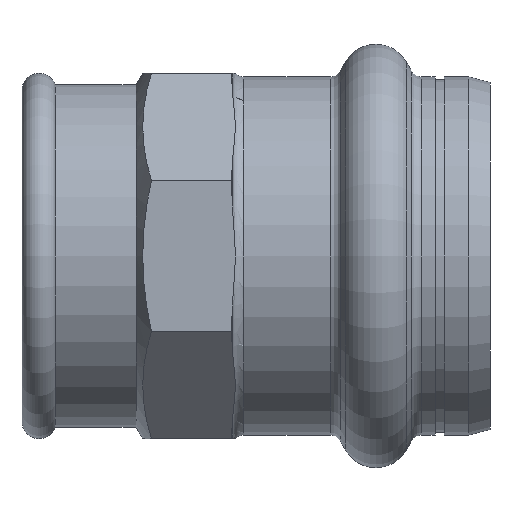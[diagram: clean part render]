
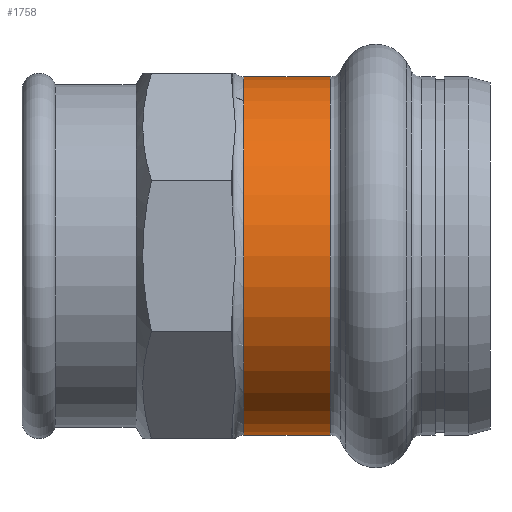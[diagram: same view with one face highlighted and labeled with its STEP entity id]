
A CAD part, left-side view. The second image highlights one B-rep face of the part: STEP entity #1758.
In plain terms, the highlighted cylindrical face has radius 15.7 mm (diameter 31.4 mm), a partial arc.
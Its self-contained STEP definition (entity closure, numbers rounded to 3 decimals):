
#53 = VERTEX_POINT ( 'NONE', #2024 ) ;
#90 = AXIS2_PLACEMENT_3D ( 'NONE', #504, #303, #1040 ) ;
#97 = ORIENTED_EDGE ( 'NONE', *, *, #1045, .F. ) ;
#250 = EDGE_CURVE ( 'NONE', #1860, #53, #789, .T. ) ;
#281 = VERTEX_POINT ( 'NONE', #1890 ) ;
#303 = DIRECTION ( 'NONE',  ( 0., -1., 0. ) ) ;
#318 = VECTOR ( 'NONE', #1168, 1000. ) ;
#339 = FACE_OUTER_BOUND ( 'NONE', #553, .T. ) ;
#389 = AXIS2_PLACEMENT_3D ( 'NONE', #1660, #1938, #1682 ) ;
#504 = CARTESIAN_POINT ( 'NONE',  ( 0., 21.584, 0. ) ) ;
#553 = EDGE_LOOP ( 'NONE', ( #1192, #1974, #1106, #97 ) ) ;
#760 = EDGE_CURVE ( 'NONE', #53, #1607, #786, .T. ) ;
#786 = LINE ( 'NONE', #1185, #318 ) ;
#789 = CIRCLE ( 'NONE', #90, 15.7 ) ;
#831 = DIRECTION ( 'NONE',  ( 0., 0., -1. ) ) ;
#841 = CARTESIAN_POINT ( 'NONE',  ( 0., 13.984, 0. ) ) ;
#853 = DIRECTION ( 'NONE',  ( 0., -1., 0. ) ) ;
#1020 = EDGE_CURVE ( 'NONE', #1860, #281, #1301, .T. ) ;
#1034 = CARTESIAN_POINT ( 'NONE',  ( 0., 13.984, -15.7 ) ) ;
#1040 = DIRECTION ( 'NONE',  ( 0., 0., -1. ) ) ;
#1045 = EDGE_CURVE ( 'NONE', #281, #1607, #1206, .T. ) ;
#1106 = ORIENTED_EDGE ( 'NONE', *, *, #760, .T. ) ;
#1110 = CARTESIAN_POINT ( 'NONE',  ( 0., 21.584, 15.7 ) ) ;
#1168 = DIRECTION ( 'NONE',  ( 0., -1., 0. ) ) ;
#1185 = CARTESIAN_POINT ( 'NONE',  ( 0., -17.811, -15.7 ) ) ;
#1192 = ORIENTED_EDGE ( 'NONE', *, *, #1020, .F. ) ;
#1206 = CIRCLE ( 'NONE', #1573, 15.7 ) ;
#1245 = CARTESIAN_POINT ( 'NONE',  ( 0., -17.811, 15.7 ) ) ;
#1279 = DIRECTION ( 'NONE',  ( 0., -1., 0. ) ) ;
#1301 = LINE ( 'NONE', #1245, #1605 ) ;
#1573 = AXIS2_PLACEMENT_3D ( 'NONE', #841, #853, #831 ) ;
#1605 = VECTOR ( 'NONE', #1279, 1000. ) ;
#1607 = VERTEX_POINT ( 'NONE', #1034 ) ;
#1660 = CARTESIAN_POINT ( 'NONE',  ( 0., -17.811, 0. ) ) ;
#1682 = DIRECTION ( 'NONE',  ( 0., 0., -1. ) ) ;
#1758 = ADVANCED_FACE ( 'NONE', ( #339 ), #1875, .T. ) ;
#1860 = VERTEX_POINT ( 'NONE', #1110 ) ;
#1875 = CYLINDRICAL_SURFACE ( 'NONE', #389, 15.7 ) ;
#1890 = CARTESIAN_POINT ( 'NONE',  ( 0., 13.984, 15.7 ) ) ;
#1938 = DIRECTION ( 'NONE',  ( 0., -1., 0. ) ) ;
#1974 = ORIENTED_EDGE ( 'NONE', *, *, #250, .T. ) ;
#2024 = CARTESIAN_POINT ( 'NONE',  ( 0., 21.584, -15.7 ) ) ;
